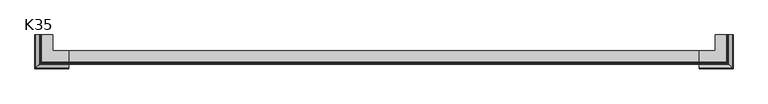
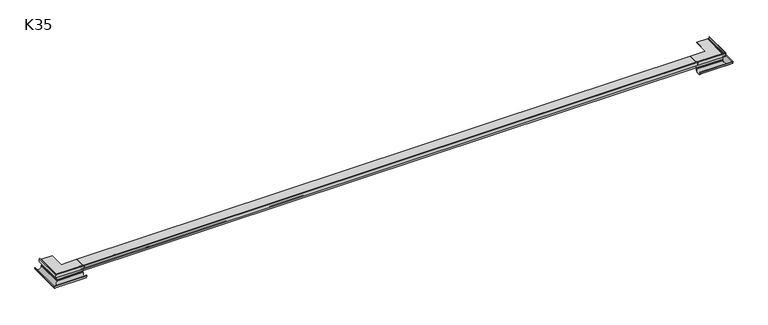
"""IFC4 building model written with IfcOpenShell, lengths in millimetres: proxy geometry, K35 Profil okapowy prosty z rynną : K35."""

from ifc_helpers import new_model, si_unit, point, frame, frame_2d, origin, place, context, project, spatial, polyline, circle_curve, ellipse_curve, trimmed, segment, composite_curve, outline, extrude, source, transform, mapped, element, save
from ifc_brep_helpers import plane_surface, cylinder_surface, revolved_surface, advanced_brep


def k35_28f71dd0(model_context):
    return source(origin(), model_context, "Body", "SolidModel", [
        advanced_brep(
        [(4810.00001, 16.4991223, -59.2083048), (4810.00001, 13.986306, -61.5531778), (4810.00001, 13.4729987, -65.2055476), (4810.00001, 16.7578594, -63.8112071), (4810.00001, 15.9780641, -65.7596329), (4810.00001, 13.1720341, -67.345008), (4810.00001, -36.6008784, -63.9830434), (4810.00001, -35.1249565, -65.8745375), (4810.00001, 11.8642359, -66.5026491), (4810.00001, 12.7305814, -60.7489582), (4810.00001, 15.099121, -58.453297), (4810.00001, 15.099121, -15.0330434), (4810.00001, 16.4991223, -15.0330434), (5006.5270113, 13.4729987, -65.2055476), (5003.2421506, 16.7578594, -63.8112071), (5004.0219459, 15.9780641, -65.7596329), (5006.8279759, 13.1720341, -67.345008), (5056.6008884, -36.6008784, -63.9830434), (5055.1249664, -35.1249565, -65.8745375), (5008.1357741, 11.8642359, -66.5026491), (5007.2694286, 12.7305814, -60.7489582), (5006.013704, 13.986306, -61.5531778), (5003.5008877, 210.0, -59.2083048), (5003.5008877, 210.0, -15.0330434), (5004.900889, 210.0, -15.0330434), (5004.900889, 210.0, -58.453297), (5007.2694286, 210.0, -60.7489582), (5008.1357741, 210.0, -66.5026491), (5055.1249664, 210.0, -65.8745375), (5056.6008884, 210.0, -63.9830434), (5006.8279759, 210.0, -67.345008), (5004.0219459, 210.0, -65.7596329), (5003.2421506, 210.0, -63.8112071), (5006.5270113, 210.0, -65.2055476), (5006.013704, 210.0, -61.5531778), (5003.5008877, 16.4991223, -15.0330434), (5003.5008877, 16.4991223, -59.2083048), (5004.900889, 15.099121, -58.453297), (5004.900889, 15.099121, -15.0330434)],
        [
            (0, 1),
            (1, 2),
            (2, 3),
            (3, 4),
            (4, 5),
            (5, 6, circle_curve(frame((4810.00001, -11.6008784, -63.9830434), z_axis=(-1.0, 0.0, 0.0), x_axis=(0.0, -1.0, 0.0)), 25.0)),
            (6, 7, circle_curve(frame((4810.00001, -34.6508784, -63.9830434), z_axis=(-1.0, 0.0, 0.0), x_axis=(0.0, -1.0, 0.0)), 1.95)),
            (7, 8, circle_curve(frame((4810.00001, -11.6008784, -63.9830434), z_axis=(1.0, 0.0, 0.0), x_axis=(0.0, -1.0, 0.0)), 23.6)),
            (8, 9),
            (9, 10),
            (10, 11),
            (11, 12),
            (12, 0),
            (2, 13),
            (13, 14),
            (14, 3),
            (14, 15),
            (15, 4),
            (15, 16),
            (16, 5),
            (16, 17, ellipse_curve(frame((5031.6008884, -11.6008784, -63.9830434), z_axis=(-0.7071067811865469, -0.7071067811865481, 0.0), x_axis=(-0.7071067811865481, 0.7071067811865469, 0.0)), 35.3553391, 25.0)),
            (17, 6),
            (17, 18, ellipse_curve(frame((5054.6508884, -34.6508784, -63.9830434), z_axis=(-0.7071067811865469, -0.7071067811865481, 0.0), x_axis=(-0.7071067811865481, 0.7071067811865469, 0.0)), 2.7577164, 1.95)),
            (18, 7),
            (18, 19, ellipse_curve(frame((5031.6008884, -11.6008784, -63.9830434), z_axis=(0.7071067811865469, 0.7071067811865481, 0.0), x_axis=(0.7071067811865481, -0.7071067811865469, 0.0)), 33.3754401, 23.6)),
            (19, 8),
            (19, 20),
            (20, 9),
            (1, 21),
            (21, 13),
            (22, 23),
            (23, 24),
            (24, 25),
            (25, 26),
            (26, 27),
            (27, 28, circle_curve(frame((5031.6008884, 210.0, -63.9830434), z_axis=(0.0, -1.0, 0.0), x_axis=(1.0, 0.0, 0.0)), 23.6)),
            (28, 29, circle_curve(frame((5054.6508884, 210.0, -63.9830434), z_axis=(0.0, 1.0, 0.0), x_axis=(1.0, 0.0, 0.0)), 1.95)),
            (29, 30, circle_curve(frame((5031.6008884, 210.0, -63.9830434), z_axis=(0.0, 1.0, 0.0), x_axis=(1.0, 0.0, 0.0)), 25.0)),
            (30, 31),
            (31, 32),
            (32, 33),
            (33, 34),
            (34, 22),
            (13, 33),
            (32, 14),
            (31, 15),
            (30, 16),
            (29, 17),
            (28, 18),
            (27, 19),
            (26, 20),
            (21, 34),
            (12, 35),
            (35, 36),
            (36, 0),
            (36, 21),
            (20, 37),
            (37, 10),
            (37, 38),
            (38, 11),
            (35, 23),
            (22, 36),
            (25, 37),
            (24, 38),
        ],
        [
            plane_surface(frame((4810.00001, 0.0, 0.0), z_axis=(-1.0, 0.0, 0.0), x_axis=(0.0, 0.0, 1.0))),
            plane_surface(frame((4810.00001, 16.7578594, -63.8112071), z_axis=(0.0, -0.3907310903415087, 0.9205048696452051), x_axis=(1.0, 0.0, 0.0))),
            plane_surface(frame((4810.00001, 15.9780641, -65.7596329), z_axis=(0.0, 0.9284068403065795, -0.37156525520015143), x_axis=(1.0, 0.0, 0.0))),
            plane_surface(frame((4810.00001, 13.1720341, -67.345008), z_axis=(0.0, 0.49190631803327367, -0.8706481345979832), x_axis=(1.0, 0.0, 0.0))),
            cylinder_surface(frame((4810.00001, -11.6008784, -63.9830434), z_axis=(-1.0, 0.0, 0.0), x_axis=(0.0, -1.0, 0.0)), 25.0),
            cylinder_surface(frame((4810.00001, -34.6508784, -63.9830434), z_axis=(-1.0, 0.0, 0.0), x_axis=(0.0, -1.0, 0.0)), 1.95),
            revolved_surface(polyline([(5055.200888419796, -35.2008784, -63.9830434), (4810.00001, -35.2008784, -63.9830434)]), (4810.00001, -11.6008784, -63.9830434), (1.0, 0.0, 0.0)),
            plane_surface(frame((4810.00001, 12.7305814, -60.7489582), z_axis=(0.0, -0.9888532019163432, 0.14889373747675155), x_axis=(1.0, 0.0, 0.0))),
            plane_surface(frame((4810.00001, 13.4729987, -65.2055476), z_axis=(0.0, 0.9902680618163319, -0.13917315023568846), x_axis=(1.0, 0.0, 0.0))),
            plane_surface(frame((5020.00001, 210.0, 0.0), z_axis=(0.0, 1.0, 0.0), x_axis=(0.0, 0.0, 1.0))),
            plane_surface(frame((5003.2421506, 16.7578594, -63.8112071), z_axis=(0.3907310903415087, 0.0, 0.9205048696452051), x_axis=(0.0, 1.0, 0.0))),
            plane_surface(frame((5004.0219459, 15.9780641, -65.7596329), z_axis=(-0.9284068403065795, 0.0, -0.37156525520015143), x_axis=(0.0, 1.0, 0.0))),
            plane_surface(frame((5006.8279759, 13.1720341, -67.345008), z_axis=(-0.49190631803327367, 0.0, -0.8706481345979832), x_axis=(0.0, 1.0, 0.0))),
            cylinder_surface(frame((5031.6008884, 0.0, -63.9830434), z_axis=(0.0, -1.0, 0.0), x_axis=(1.0, 0.0, 0.0)), 25.0),
            cylinder_surface(frame((5054.6508884, 0.0, -63.9830434), z_axis=(0.0, -1.0, 0.0), x_axis=(1.0, 0.0, 0.0)), 1.95),
            revolved_surface(polyline([(5055.200888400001, 210.0, -63.9830434), (5055.200888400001, -35.2008784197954, -63.9830434)]), (5031.6008884, 0.0, -63.9830434), (0.0, 1.0, 0.0)),
            plane_surface(frame((5007.2694286, 12.7305814, -60.7489582), z_axis=(0.9888532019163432, 0.0, 0.14889373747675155), x_axis=(0.0, 1.0, 0.0))),
            plane_surface(frame((5006.5270113, 13.4729987, -65.2055476), z_axis=(-0.9902680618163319, 0.0, -0.13917315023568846), x_axis=(0.0, 1.0, 0.0))),
            plane_surface(frame((4810.00001, 16.4991223, -59.2083048), z_axis=(0.0, 1.0, 0.0), x_axis=(1.0, 0.0, 0.0))),
            plane_surface(frame((4810.00001, 13.986306, -61.5531778), z_axis=(0.0, 0.6822525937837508, -0.7311165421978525), x_axis=(1.0, 0.0, 0.0))),
            plane_surface(frame((4810.00001, 15.099121, -58.453297), z_axis=(0.0, -0.6959732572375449, 0.7180677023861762), x_axis=(1.0, 0.0, 0.0))),
            plane_surface(frame((4810.00001, 15.099121, -15.0330434), z_axis=(0.0, -1.0, 0.0), x_axis=(1.0, 0.0, 0.0))),
            plane_surface(frame((5003.5008877, 16.4991223, -59.2083048), z_axis=(-1.0, 0.0, 0.0), x_axis=(0.0, 1.0, 0.0))),
            plane_surface(frame((5006.013704, 13.986306, -61.5531778), z_axis=(-0.6822525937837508, 0.0, -0.7311165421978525), x_axis=(0.0, 1.0, 0.0))),
            plane_surface(frame((5004.900889, 15.099121, -58.453297), z_axis=(0.6959732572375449, 0.0, 0.7180677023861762), x_axis=(0.0, 1.0, 0.0))),
            plane_surface(frame((5004.900889, 15.099121, -15.0330434), z_axis=(1.0, 0.0, 0.0), x_axis=(0.0, 1.0, 0.0))),
            plane_surface(frame((4810.00001, 16.4991223, -15.0330434), z_axis=(0.0, 0.0, 1.0), x_axis=(1.0, 0.0, 0.0))),
        ],
        [
            (0, [[1, 2, 3, 4, 5, 6, 7, 8, 9, 10, 11, 12, 13]]),
            (1, [[14, 15, 16, -3]]),
            (2, [[-16, 17, 18, -4]]),
            (3, [[-18, 19, 20, -5]]),
            (4, [[-20, 21, 22, -6]]),
            (5, [[-22, 23, 24, -7]]),
            (6, [[-24, 25, 26, -8]]),
            (7, [[-26, 27, 28, -9]]),
            (8, [[29, 30, -14, -2]]),
            (9, [[31, 32, 33, 34, 35, 36, 37, 38, 39, 40, 41, 42, 43]]),
            (10, [[44, -41, 45, -15]]),
            (11, [[-45, -40, 46, -17]]),
            (12, [[-46, -39, 47, -19]]),
            (13, [[-47, -38, 48, -21]]),
            (14, [[-48, -37, 49, -23]]),
            (15, [[-49, -36, 50, -25]]),
            (16, [[-50, -35, 51, -27]]),
            (17, [[52, -42, -44, -30]]),
            (18, [[53, 54, 55, -13]]),
            (19, [[-55, 56, -29, -1]]),
            (20, [[-28, 57, 58, -10]]),
            (21, [[-58, 59, 60, -11]]),
            (22, [[61, -31, 62, -54]]),
            (23, [[-62, -43, -52, -56]]),
            (24, [[-51, -34, 63, -57]]),
            (25, [[-63, -33, 64, -59]]),
            (26, [[-60, -64, -32, -61, -53, -12]]),
        ],
    ),
        advanced_brep(
        [(4810.00001, -0.0010677, 0.0), (4810.00001, -0.0010677, -1.8358001), (4810.00001, -1.0010677, -2.8358001), (4810.00001, -1.0010677, -19.6829113), (4810.00001, 13.1366439, -19.6829113), (4810.00001, 13.1366439, -14.9), (4810.00001, 11.3457599, -14.9), (4810.00001, 9.9435317, -16.3022282), (4810.00001, 8.4405044, -16.3022282), (4810.00001, 11.0612599, -13.5), (4810.00001, 95.0989323, -13.5), (4810.00001, 95.0989323, -14.9), (4810.00001, 21.5989323, -14.9), (4810.00001, 21.5989323, -17.8969711), (4810.00001, 20.0989323, -17.8969711), (4810.00001, 20.0989323, -14.9), (4810.00001, 15.0989323, -14.9), (4810.00001, 15.0989323, -54.7), (4810.00001, 13.5989323, -54.7), (4810.00001, 13.5989323, -21.1829113), (4810.00001, 10.049712, -21.1829113), (4810.00001, 8.5231229, -22.7095005), (4810.00001, 8.5231229, -21.1829113), (4810.00001, -1.0010677, -21.1829113), (4810.00001, -1.0010677, -25.549015), (4810.00001, -2.5010677, -26.8), (4810.00001, -2.5010677, -2.8358001), (5020.0010777, 210.0, 0.0), (5022.5010777, 210.0, -2.8358001), (5022.5010777, 210.0, -26.8), (5021.0010777, 210.0, -25.549015), (5021.0010777, 210.0, -21.1829113), (5011.4768871, 210.0, -21.1829113), (5011.4768871, 210.0, -22.7095005), (5009.950298, 210.0, -21.1829113), (5006.4010777, 210.0, -21.1829113), (5006.4010777, 210.0, -54.7), (5004.9010777, 210.0, -54.7), (5004.9010777, 210.0, -14.9), (4999.9010777, 210.0, -14.9), (4999.9010777, 210.0, -17.8969711), (4998.4010777, 210.0, -17.8969711), (4998.4010777, 210.0, -14.9), (4924.9010777, 210.0, -14.9), (4924.9010777, 210.0, -13.5), (5008.9387501, 210.0, -13.5), (5011.5595056, 210.0, -16.3022282), (5010.0564783, 210.0, -16.3022282), (5008.6542501, 210.0, -14.9), (5006.863366, 210.0, -14.9), (5006.863366, 210.0, -19.6829113), (5021.0010777, 210.0, -19.6829113), (5021.0010777, 210.0, -2.8358001), (5020.0010777, 210.0, -1.8358001), (5022.5010777, -2.5010677, -2.8358001), (5020.0010777, -0.0010677, 0.0), (5022.5010777, -2.5010677, -26.8), (5021.0010777, -1.0010677, -25.549015), (5021.0010777, -1.0010677, -21.1829113), (5011.4768871, 8.5231229, -21.1829113), (5011.4768871, 8.5231229, -22.7095005), (5009.950298, 10.049712, -21.1829113), (5006.4010777, 13.5989323, -21.1829113), (5006.4010777, 13.5989323, -54.7), (5004.9010777, 15.0989323, -54.7), (5004.9010777, 15.0989323, -14.9), (4999.9010777, 20.0989323, -14.9), (4999.9010777, 20.0989323, -17.8969711), (4998.4010777, 21.5989323, -17.8969711), (4998.4010777, 21.5989323, -14.9), (4924.9010777, 95.0989323, -14.9), (4924.9010777, 95.0989323, -13.5), (5008.9387501, 11.0612599, -13.5), (5011.5595056, 8.4405044, -16.3022282), (5010.0564783, 9.9435317, -16.3022282), (5008.6542501, 11.3457599, -14.9), (5006.863366, 13.1366439, -14.9), (5006.863366, 13.1366439, -19.6829113), (5021.0010777, -1.0010677, -19.6829113), (5021.0010777, -1.0010677, -2.8358001), (5020.0010777, -0.0010677, -1.8358001)],
        [
            (0, 1),
            (1, 2, circle_curve(frame((4810.00001, -0.0010677, -2.8358001), z_axis=(1.0, 0.0, 0.0), x_axis=(0.0, -1.0, 0.0)), 1.0)),
            (2, 3),
            (3, 4),
            (4, 5),
            (5, 6),
            (6, 7, circle_curve(frame((4810.00001, 11.3457599, -16.3022282), z_axis=(1.0, 0.0, 0.0), x_axis=(0.0, 1.0, 0.0)), 1.4022282)),
            (7, 8),
            (8, 9, circle_curve(frame((4810.00001, 11.0612599, -16.1266316), z_axis=(-1.0, 0.0, 0.0), x_axis=(0.0, 1.0, 0.0)), 2.6266316)),
            (9, 10),
            (10, 11),
            (11, 12),
            (12, 13),
            (13, 14),
            (14, 15),
            (15, 16),
            (16, 17),
            (17, 18),
            (18, 19),
            (19, 20),
            (20, 21),
            (21, 22),
            (22, 23),
            (23, 24),
            (24, 25),
            (25, 26),
            (26, 0, circle_curve(frame((4810.00001, 0.4087938, -2.8812097), z_axis=(-1.0, 0.0, 0.0), x_axis=(0.0, -1.0, 0.0)), 2.9102158)),
            (27, 28, circle_curve(frame((5019.5912162, 210.0, -2.8812097), z_axis=(0.0, 1.0, 0.0), x_axis=(1.0, 0.0, 0.0)), 2.9102158)),
            (28, 29),
            (29, 30),
            (30, 31),
            (31, 32),
            (32, 33),
            (33, 34),
            (34, 35),
            (35, 36),
            (36, 37),
            (37, 38),
            (38, 39),
            (39, 40),
            (40, 41),
            (41, 42),
            (42, 43),
            (43, 44),
            (44, 45),
            (45, 46, circle_curve(frame((5008.9387501, 210.0, -16.1266316), z_axis=(0.0, 1.0, 0.0), x_axis=(-1.0, 0.0, 0.0)), 2.6266316)),
            (46, 47),
            (47, 48, circle_curve(frame((5008.6542501, 210.0, -16.3022282), z_axis=(0.0, -1.0, 0.0), x_axis=(-1.0, 0.0, 0.0)), 1.4022282)),
            (48, 49),
            (49, 50),
            (50, 51),
            (51, 52),
            (52, 53, circle_curve(frame((5020.0010777, 210.0, -2.8358001), z_axis=(0.0, -1.0, 0.0), x_axis=(1.0, 0.0, 0.0)), 1.0)),
            (53, 27),
            (26, 54),
            (54, 55, ellipse_curve(frame((5019.5912162, 0.4087938, -2.8812097), z_axis=(-0.7071067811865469, -0.707106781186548, 0.0), x_axis=(-0.7071067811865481, 0.7071067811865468, 0.0)), 4.1156667, 2.9102158)),
            (55, 0),
            (25, 56),
            (56, 54),
            (24, 57),
            (57, 56),
            (23, 58),
            (58, 57),
            (22, 59),
            (59, 32),
            (31, 58),
            (21, 60),
            (60, 59),
            (20, 61),
            (61, 60),
            (19, 62),
            (62, 35),
            (34, 61),
            (18, 63),
            (63, 62),
            (17, 64),
            (64, 37),
            (36, 63),
            (16, 65),
            (65, 64),
            (15, 66),
            (66, 39),
            (38, 65),
            (14, 67),
            (67, 66),
            (13, 68),
            (68, 41),
            (40, 67),
            (12, 69),
            (69, 68),
            (11, 70),
            (70, 43),
            (42, 69),
            (10, 71),
            (71, 70),
            (9, 72),
            (72, 45),
            (44, 71),
            (8, 73),
            (73, 72, ellipse_curve(frame((5008.9387501, 11.0612599, -16.1266316), z_axis=(-0.7071067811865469, -0.707106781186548, 0.0), x_axis=(-0.7071067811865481, 0.7071067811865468, 0.0)), 3.714618, 2.6266316)),
            (7, 74),
            (74, 47),
            (46, 73),
            (6, 75),
            (75, 74, ellipse_curve(frame((5008.6542501, 11.3457599, -16.3022282), z_axis=(0.7071067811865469, 0.707106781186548, 0.0), x_axis=(0.7071067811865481, -0.7071067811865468, 0.0)), 1.9830501, 1.4022282)),
            (5, 76),
            (76, 49),
            (48, 75),
            (4, 77),
            (77, 76),
            (3, 78),
            (78, 51),
            (50, 77),
            (2, 79),
            (79, 78),
            (1, 80),
            (80, 79, ellipse_curve(frame((5020.0010777, -0.0010677, -2.8358001), z_axis=(0.7071067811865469, 0.707106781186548, 0.0), x_axis=(0.7071067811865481, -0.7071067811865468, 0.0)), 1.4142136, 1.0)),
            (55, 80),
            (54, 28),
            (27, 55),
            (56, 29),
            (57, 30),
            (60, 33),
            (79, 52),
            (80, 53),
        ],
        [
            plane_surface(frame((4810.00001, 0.0, 0.0), z_axis=(-1.0, 0.0, 0.0), x_axis=(0.0, 0.0, 1.0))),
            plane_surface(frame((5020.00001, 210.0, 0.0), z_axis=(0.0, 1.0, 0.0), x_axis=(0.0, 0.0, 1.0))),
            cylinder_surface(frame((4810.00001, 0.4087938, -2.8812097), z_axis=(-1.0, 0.0, 0.0), x_axis=(0.0, -1.0, 0.0)), 2.9102158),
            plane_surface(frame((4810.00001, -2.5010677, -2.8358001), z_axis=(0.0, -1.0, 0.0), x_axis=(1.0, 0.0, 0.0))),
            plane_surface(frame((4810.00001, -2.5010677, -26.8), z_axis=(0.0, 0.6404819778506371, -0.767973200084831), x_axis=(1.0, 0.0, 0.0))),
            plane_surface(frame((4810.00001, -1.0010677, -25.549015), z_axis=(0.0, 1.0, 0.0), x_axis=(1.0, 0.0, 0.0))),
            plane_surface(frame((4810.00001, 7.7310535, -21.1829113), z_axis=(0.0, 0.0, -1.0), x_axis=(1.0, 0.0, 0.0))),
            plane_surface(frame((4810.00001, 8.5231229, -21.1829113), z_axis=(0.0, -1.0, 0.0), x_axis=(1.0, 0.0, 0.0))),
            plane_surface(frame((4810.00001, 8.5231229, -22.7095005), z_axis=(0.0, 0.7071067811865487, -0.7071067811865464), x_axis=(1.0, 0.0, 0.0))),
            plane_surface(frame((4810.00001, 10.049712, -21.1829113), z_axis=(0.0, 0.0, -1.0), x_axis=(1.0, 0.0, 0.0))),
            plane_surface(frame((4810.00001, 13.5989323, -21.1829113), z_axis=(0.0, -1.0, 0.0), x_axis=(1.0, 0.0, 0.0))),
            plane_surface(frame((4810.00001, 13.5989323, -54.7), z_axis=(0.0, 0.0, -1.0), x_axis=(1.0, 0.0, 0.0))),
            plane_surface(frame((4810.00001, 15.0989323, -54.7), z_axis=(0.0, 1.0, 0.0), x_axis=(1.0, 0.0, 0.0))),
            plane_surface(frame((4810.00001, 15.0989323, -14.9), z_axis=(0.0, 0.0, -1.0), x_axis=(1.0, 0.0, 0.0))),
            plane_surface(frame((4810.00001, 20.0989323, -14.9), z_axis=(0.0, -1.0, 0.0), x_axis=(1.0, 0.0, 0.0))),
            plane_surface(frame((4810.00001, 20.0989323, -17.8969711), z_axis=(0.0, 0.0, -1.0), x_axis=(1.0, 0.0, 0.0))),
            plane_surface(frame((4810.00001, 21.5989323, -17.8969711), z_axis=(0.0, 1.0, 0.0), x_axis=(1.0, 0.0, 0.0))),
            plane_surface(frame((4810.00001, 21.5989323, -14.9), z_axis=(0.0, 0.0, -1.0), x_axis=(1.0, 0.0, 0.0))),
            plane_surface(frame((4810.00001, 95.0989323, -14.9), z_axis=(0.0, 1.0, 0.0), x_axis=(1.0, 0.0, 0.0))),
            plane_surface(frame((4810.00001, 95.0989323, -13.5), z_axis=(0.0, 0.0, 1.0), x_axis=(1.0, 0.0, 0.0))),
            cylinder_surface(frame((4810.00001, 11.0612599, -16.1266316), z_axis=(-1.0, 0.0, 0.0), x_axis=(0.0, 1.0, 0.0)), 2.6266316),
            plane_surface(frame((4810.00001, 8.4405044, -16.3022282), z_axis=(0.0, 0.0, -1.0), x_axis=(1.0, 0.0, 0.0))),
            revolved_surface(polyline([(5010.0564783, 12.747988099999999, -16.3022282), (4810.00001, 12.747988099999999, -16.3022282)]), (4810.00001, 11.3457599, -16.3022282), (1.0, 0.0, 0.0)),
            plane_surface(frame((4810.00001, 11.3457599, -14.9), z_axis=(0.0, 0.0, -1.0), x_axis=(1.0, 0.0, 0.0))),
            plane_surface(frame((4810.00001, 13.1366439, -14.9), z_axis=(0.0, -1.0, 0.0), x_axis=(1.0, 0.0, 0.0))),
            plane_surface(frame((4810.00001, 0.0, -19.6829113), z_axis=(0.0, 0.0, 1.0), x_axis=(1.0, 0.0, 0.0))),
            plane_surface(frame((4810.00001, -1.0010677, -19.6829113), z_axis=(0.0, 1.0, 0.0), x_axis=(1.0, 0.0, 0.0))),
            revolved_surface(polyline([(5021.001077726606, -1.0010677, -2.8358001), (4810.00001, -1.0010677, -2.8358001)]), (4810.00001, -0.0010677, -2.8358001), (1.0, 0.0, 0.0)),
            plane_surface(frame((4810.00001, -0.0010677, -1.8358001), z_axis=(0.0, 1.0, 0.0), x_axis=(1.0, 0.0, 0.0))),
            cylinder_surface(frame((5019.5912162, 0.0, -2.8812097), z_axis=(0.0, -1.0, 0.0), x_axis=(1.0, 0.0, 0.0)), 2.9102158),
            plane_surface(frame((5022.5010777, -2.5010677, -2.8358001), z_axis=(1.0, 0.0, 0.0), x_axis=(0.0, 1.0, 0.0))),
            plane_surface(frame((5022.5010777, -2.5010677, -26.8), z_axis=(-0.6404819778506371, 0.0, -0.767973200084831), x_axis=(0.0, 1.0, 0.0))),
            plane_surface(frame((5021.0010777, -1.0010677, -25.549015), z_axis=(-1.0, 0.0, 0.0), x_axis=(0.0, 1.0, 0.0))),
            plane_surface(frame((5011.4768871, 8.5231229, -21.1829113), z_axis=(1.0, 0.0, 0.0), x_axis=(0.0, 1.0, 0.0))),
            plane_surface(frame((5011.4768871, 8.5231229, -22.7095005), z_axis=(-0.7071067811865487, 0.0, -0.7071067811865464), x_axis=(0.0, 1.0, 0.0))),
            plane_surface(frame((5006.4010777, 13.5989323, -21.1829113), z_axis=(1.0, 0.0, 0.0), x_axis=(0.0, 1.0, 0.0))),
            plane_surface(frame((5004.9010777, 15.0989323, -54.7), z_axis=(-1.0, 0.0, 0.0), x_axis=(0.0, 1.0, 0.0))),
            plane_surface(frame((4999.9010777, 20.0989323, -14.9), z_axis=(1.0, 0.0, 0.0), x_axis=(0.0, 1.0, 0.0))),
            plane_surface(frame((4998.4010777, 21.5989323, -17.8969711), z_axis=(-1.0, 0.0, 0.0), x_axis=(0.0, 1.0, 0.0))),
            plane_surface(frame((4924.9010777, 95.0989323, -14.9), z_axis=(-1.0, 0.0, 0.0), x_axis=(0.0, 1.0, 0.0))),
            cylinder_surface(frame((5008.9387501, 0.0, -16.1266316), z_axis=(0.0, -1.0, 0.0), x_axis=(-1.0, 0.0, 0.0)), 2.6266316),
            revolved_surface(polyline([(5007.252021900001, 210.0, -16.3022282), (5007.252021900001, 9.9435317, -16.3022282)]), (5008.6542501, 0.0, -16.3022282), (0.0, 1.0, 0.0)),
            plane_surface(frame((5006.863366, 13.1366439, -14.9), z_axis=(1.0, 0.0, 0.0), x_axis=(0.0, 1.0, 0.0))),
            plane_surface(frame((5021.0010777, -1.0010677, -19.6829113), z_axis=(-1.0, 0.0, 0.0), x_axis=(0.0, 1.0, 0.0))),
            revolved_surface(polyline([(5021.0010777, 210.0, -2.8358001), (5021.0010777, -1.0010677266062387, -2.8358001)]), (5020.0010777, 0.0, -2.8358001), (0.0, 1.0, 0.0)),
            plane_surface(frame((5020.0010777, -0.0010677, -1.8358001), z_axis=(-1.0, 0.0, 0.0), x_axis=(0.0, 1.0, 0.0))),
        ],
        [
            (0, [[1, 2, 3, 4, 5, 6, 7, 8, 9, 10, 11, 12, 13, 14, 15, 16, 17, 18, 19, 20, 21, 22, 23, 24, 25, 26, 27]]),
            (1, [[28, 29, 30, 31, 32, 33, 34, 35, 36, 37, 38, 39, 40, 41, 42, 43, 44, 45, 46, 47, 48, 49, 50, 51, 52, 53, 54]]),
            (2, [[55, 56, 57, -27]]),
            (3, [[58, 59, -55, -26]]),
            (4, [[60, 61, -58, -25]]),
            (5, [[62, 63, -60, -24]]),
            (6, [[-23, 64, 65, -32, 66, -62]]),
            (7, [[67, 68, -64, -22]]),
            (8, [[69, 70, -67, -21]]),
            (9, [[71, 72, -35, 73, -69, -20]]),
            (10, [[74, 75, -71, -19]]),
            (11, [[76, 77, -37, 78, -74, -18]]),
            (12, [[79, 80, -76, -17]]),
            (13, [[81, 82, -39, 83, -79, -16]]),
            (14, [[84, 85, -81, -15]]),
            (15, [[86, 87, -41, 88, -84, -14]]),
            (16, [[89, 90, -86, -13]]),
            (17, [[91, 92, -43, 93, -89, -12]]),
            (18, [[94, 95, -91, -11]]),
            (19, [[96, 97, -45, 98, -94, -10]]),
            (20, [[99, 100, -96, -9]]),
            (21, [[101, 102, -47, 103, -99, -8]]),
            (22, [[104, 105, -101, -7]]),
            (23, [[106, 107, -49, 108, -104, -6]]),
            (24, [[109, 110, -106, -5]]),
            (25, [[-4, 111, 112, -51, 113, -109]]),
            (26, [[114, 115, -111, -3]]),
            (27, [[116, 117, -114, -2]]),
            (28, [[-57, 118, -116, -1]]),
            (29, [[119, -28, 120, -56]]),
            (30, [[121, -29, -119, -59]]),
            (31, [[122, -30, -121, -61]]),
            (32, [[-66, -31, -122, -63]]),
            (33, [[123, -33, -65, -68]]),
            (34, [[-73, -34, -123, -70]]),
            (35, [[-78, -36, -72, -75]]),
            (36, [[-83, -38, -77, -80]]),
            (37, [[-88, -40, -82, -85]]),
            (38, [[-93, -42, -87, -90]]),
            (39, [[-98, -44, -92, -95]]),
            (40, [[-103, -46, -97, -100]]),
            (41, [[-108, -48, -102, -105]]),
            (42, [[-113, -50, -107, -110]]),
            (43, [[124, -52, -112, -115]]),
            (44, [[125, -53, -124, -117]]),
            (45, [[-120, -54, -125, -118]]),
        ],
    ),
        advanced_brep(
        [(210.0, 16.4991223, -59.2083048), (210.0, 16.4991223, -15.0330434), (210.0, 15.099121, -15.0330434), (210.0, 15.099121, -58.453297), (210.0, 12.7305814, -60.7489582), (210.0, 11.8642359, -66.5026491), (210.0, -35.1249565, -65.8745375), (210.0, -36.6008784, -63.9830434), (210.0, 13.1720341, -67.345008), (210.0, 15.9780641, -65.7596329), (210.0, 16.7578594, -63.8112071), (210.0, 13.4729987, -65.2055476), (210.0, 13.986306, -61.5531778), (16.7578594, 16.7578594, -63.8112071), (13.4729987, 13.4729987, -65.2055476), (15.9780641, 15.9780641, -65.7596329), (13.1720341, 13.1720341, -67.345008), (-36.6008784, -36.6008784, -63.9830434), (-35.1249565, -35.1249565, -65.8745375), (11.8642359, 11.8642359, -66.5026491), (12.7305814, 12.7305814, -60.7489582), (13.986306, 13.986306, -61.5531778), (16.4991223, 210.0, -59.2083048), (13.986306, 210.0, -61.5531778), (13.4729987, 210.0, -65.2055476), (16.7578594, 210.0, -63.8112071), (15.9780641, 210.0, -65.7596329), (13.1720341, 210.0, -67.345008), (-36.6008784, 210.0, -63.9830434), (-35.1249565, 210.0, -65.8745375), (11.8642359, 210.0, -66.5026491), (12.7305814, 210.0, -60.7489582), (15.099121, 210.0, -58.453297), (15.099121, 210.0, -15.0330434), (16.4991223, 210.0, -15.0330434), (16.4991223, 16.4991223, -59.2083048), (16.4991223, 16.4991223, -15.0330434), (15.099121, 15.099121, -58.453297), (15.099121, 15.099121, -15.0330434)],
        [
            (0, 1),
            (1, 2),
            (2, 3),
            (3, 4),
            (4, 5),
            (5, 6, circle_curve(frame((210.0, -11.6008784, -63.9830434), z_axis=(-1.0, 0.0, 0.0), x_axis=(0.0, -1.0, 0.0)), 23.6)),
            (6, 7, circle_curve(frame((210.0, -34.6508784, -63.9830434), z_axis=(1.0, 0.0, 0.0), x_axis=(0.0, -1.0, 0.0)), 1.95)),
            (7, 8, circle_curve(frame((210.0, -11.6008784, -63.9830434), z_axis=(1.0, 0.0, 0.0), x_axis=(0.0, -1.0, 0.0)), 25.0)),
            (8, 9),
            (9, 10),
            (10, 11),
            (11, 12),
            (12, 0),
            (10, 13),
            (13, 14),
            (14, 11),
            (9, 15),
            (15, 13),
            (8, 16),
            (16, 15),
            (7, 17),
            (17, 16, ellipse_curve(frame((-11.6008784, -11.6008784, -63.9830434), z_axis=(0.7071067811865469, -0.7071067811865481, 0.0), x_axis=(0.7071067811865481, 0.7071067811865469, 0.0)), 35.3553391, 25.0)),
            (6, 18),
            (18, 17, ellipse_curve(frame((-34.6508784, -34.6508784, -63.9830434), z_axis=(0.7071067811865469, -0.7071067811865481, 0.0), x_axis=(0.7071067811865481, 0.7071067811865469, 0.0)), 2.7577164, 1.95)),
            (5, 19),
            (19, 18, ellipse_curve(frame((-11.6008784, -11.6008784, -63.9830434), z_axis=(-0.7071067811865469, 0.7071067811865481, 0.0), x_axis=(-0.7071067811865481, -0.7071067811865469, 0.0)), 33.3754401, 23.6)),
            (4, 20),
            (20, 19),
            (14, 21),
            (21, 12),
            (22, 23),
            (23, 24),
            (24, 25),
            (25, 26),
            (26, 27),
            (27, 28, circle_curve(frame((-11.6008784, 210.0, -63.9830434), z_axis=(0.0, 1.0, 0.0), x_axis=(-1.0, 0.0, 0.0)), 25.0)),
            (28, 29, circle_curve(frame((-34.6508784, 210.0, -63.9830434), z_axis=(0.0, 1.0, 0.0), x_axis=(-1.0, 0.0, 0.0)), 1.95)),
            (29, 30, circle_curve(frame((-11.6008784, 210.0, -63.9830434), z_axis=(0.0, -1.0, 0.0), x_axis=(-1.0, 0.0, 0.0)), 23.6)),
            (30, 31),
            (31, 32),
            (32, 33),
            (33, 34),
            (34, 22),
            (13, 25),
            (24, 14),
            (15, 26),
            (16, 27),
            (17, 28),
            (18, 29),
            (19, 30),
            (20, 31),
            (23, 21),
            (0, 35),
            (35, 36),
            (36, 1),
            (21, 35),
            (3, 37),
            (37, 20),
            (2, 38),
            (38, 37),
            (35, 22),
            (34, 36),
            (37, 32),
            (38, 33),
        ],
        [
            plane_surface(frame((210.0, 0.0, 0.0), z_axis=(1.0, 0.0, 0.0), x_axis=(0.0, 0.0, 1.0))),
            plane_surface(frame((210.0, 16.7578594, -63.8112071), z_axis=(0.0, -0.3907310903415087, 0.9205048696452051), x_axis=(-1.0, 0.0, 0.0))),
            plane_surface(frame((210.0, 15.9780641, -65.7596329), z_axis=(0.0, 0.9284068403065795, -0.37156525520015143), x_axis=(-1.0, 0.0, 0.0))),
            plane_surface(frame((210.0, 13.1720341, -67.345008), z_axis=(0.0, 0.49190631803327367, -0.8706481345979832), x_axis=(-1.0, 0.0, 0.0))),
            cylinder_surface(frame((210.0, -11.6008784, -63.9830434), z_axis=(1.0, 0.0, 0.0), x_axis=(0.0, -1.0, 0.0)), 25.0),
            cylinder_surface(frame((210.0, -34.6508784, -63.9830434), z_axis=(1.0, 0.0, 0.0), x_axis=(0.0, -1.0, 0.0)), 1.95),
            revolved_surface(polyline([(-35.20087841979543, -35.2008784, -63.9830434), (210.0, -35.2008784, -63.9830434)]), (210.0, -11.6008784, -63.9830434), (-1.0, 0.0, 0.0)),
            plane_surface(frame((210.0, 12.7305814, -60.7489582), z_axis=(0.0, -0.9888532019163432, 0.14889373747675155), x_axis=(-1.0, 0.0, 0.0))),
            plane_surface(frame((210.0, 13.4729987, -65.2055476), z_axis=(0.0, 0.9902680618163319, -0.13917315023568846), x_axis=(-1.0, 0.0, 0.0))),
            plane_surface(frame((0.0, 210.0, 0.0), z_axis=(0.0, 1.0, 0.0), x_axis=(0.0, 0.0, 1.0))),
            plane_surface(frame((16.7578594, 16.7578594, -63.8112071), z_axis=(-0.3907310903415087, 0.0, 0.9205048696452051), x_axis=(0.0, 1.0, 0.0))),
            plane_surface(frame((15.9780641, 15.9780641, -65.7596329), z_axis=(0.9284068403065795, 0.0, -0.37156525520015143), x_axis=(0.0, 1.0, 0.0))),
            plane_surface(frame((13.1720341, 13.1720341, -67.345008), z_axis=(0.49190631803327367, 0.0, -0.8706481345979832), x_axis=(0.0, 1.0, 0.0))),
            cylinder_surface(frame((-11.6008784, 0.0, -63.9830434), z_axis=(0.0, -1.0, 0.0), x_axis=(-1.0, 0.0, 0.0)), 25.0),
            cylinder_surface(frame((-34.6508784, 0.0, -63.9830434), z_axis=(0.0, -1.0, 0.0), x_axis=(-1.0, 0.0, 0.0)), 1.95),
            revolved_surface(polyline([(-35.2008784, 210.0, -63.9830434), (-35.2008784, -35.2008784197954, -63.9830434)]), (-11.6008784, 0.0, -63.9830434), (0.0, 1.0, 0.0)),
            plane_surface(frame((12.7305814, 12.7305814, -60.7489582), z_axis=(-0.9888532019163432, 0.0, 0.14889373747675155), x_axis=(0.0, 1.0, 0.0))),
            plane_surface(frame((13.4729987, 13.4729987, -65.2055476), z_axis=(0.9902680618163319, 0.0, -0.13917315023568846), x_axis=(0.0, 1.0, 0.0))),
            plane_surface(frame((210.0, 16.4991223, -59.2083048), z_axis=(0.0, 1.0, 0.0), x_axis=(-1.0, 0.0, 0.0))),
            plane_surface(frame((210.0, 13.986306, -61.5531778), z_axis=(0.0, 0.6822525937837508, -0.7311165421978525), x_axis=(-1.0, 0.0, 0.0))),
            plane_surface(frame((210.0, 15.099121, -58.453297), z_axis=(0.0, -0.6959732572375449, 0.7180677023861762), x_axis=(-1.0, 0.0, 0.0))),
            plane_surface(frame((210.0, 15.099121, -15.0330434), z_axis=(0.0, -1.0, 0.0), x_axis=(-1.0, 0.0, 0.0))),
            plane_surface(frame((16.4991223, 16.4991223, -59.2083048), z_axis=(1.0, 0.0, 0.0), x_axis=(0.0, 1.0, 0.0))),
            plane_surface(frame((13.986306, 13.986306, -61.5531778), z_axis=(0.6822525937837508, 0.0, -0.7311165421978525), x_axis=(0.0, 1.0, 0.0))),
            plane_surface(frame((15.099121, 15.099121, -58.453297), z_axis=(-0.6959732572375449, 0.0, 0.7180677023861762), x_axis=(0.0, 1.0, 0.0))),
            plane_surface(frame((15.099121, 15.099121, -15.0330434), z_axis=(-1.0, 0.0, 0.0), x_axis=(0.0, 1.0, 0.0))),
            plane_surface(frame((210.0, 16.4991223, -15.0330434), z_axis=(0.0, 0.0, 1.0), x_axis=(-1.0, 0.0, 0.0))),
        ],
        [
            (0, [[1, 2, 3, 4, 5, 6, 7, 8, 9, 10, 11, 12, 13]]),
            (1, [[-11, 14, 15, 16]]),
            (2, [[-10, 17, 18, -14]]),
            (3, [[-9, 19, 20, -17]]),
            (4, [[-8, 21, 22, -19]]),
            (5, [[-7, 23, 24, -21]]),
            (6, [[-6, 25, 26, -23]]),
            (7, [[-5, 27, 28, -25]]),
            (8, [[-12, -16, 29, 30]]),
            (9, [[31, 32, 33, 34, 35, 36, 37, 38, 39, 40, 41, 42, 43]]),
            (10, [[-15, 44, -33, 45]]),
            (11, [[-18, 46, -34, -44]]),
            (12, [[-20, 47, -35, -46]]),
            (13, [[-22, 48, -36, -47]]),
            (14, [[-24, 49, -37, -48]]),
            (15, [[-26, 50, -38, -49]]),
            (16, [[-28, 51, -39, -50]]),
            (17, [[-29, -45, -32, 52]]),
            (18, [[-1, 53, 54, 55]]),
            (19, [[-13, -30, 56, -53]]),
            (20, [[-4, 57, 58, -27]]),
            (21, [[-3, 59, 60, -57]]),
            (22, [[-54, 61, -43, 62]]),
            (23, [[-56, -52, -31, -61]]),
            (24, [[-58, 63, -40, -51]]),
            (25, [[-60, 64, -41, -63]]),
            (26, [[-2, -55, -62, -42, -64, -59]]),
        ],
    ),
        advanced_brep(
        [(210.0, -0.0010677, 0.0), (210.0, -2.5010677, -2.8358001), (210.0, -2.5010677, -26.8), (210.0, -1.0010677, -25.549015), (210.0, -1.0010677, -21.1829113), (210.0, 8.5231229, -21.1829113), (210.0, 8.5231229, -22.7095005), (210.0, 10.049712, -21.1829113), (210.0, 13.5989323, -21.1829113), (210.0, 13.5989323, -54.7), (210.0, 15.0989323, -54.7), (210.0, 15.0989323, -14.9), (210.0, 20.0989323, -14.9), (210.0, 20.0989323, -17.8969711), (210.0, 21.5989323, -17.8969711), (210.0, 21.5989323, -14.9), (210.0, 95.0989323, -14.9), (210.0, 95.0989323, -13.5), (210.0, 11.0612599, -13.5), (210.0, 8.4405044, -16.3022282), (210.0, 9.9435317, -16.3022282), (210.0, 11.3457599, -14.9), (210.0, 13.1366439, -14.9), (210.0, 13.1366439, -19.6829113), (210.0, -1.0010677, -19.6829113), (210.0, -1.0010677, -2.8358001), (210.0, -0.0010677, -1.8358001), (-0.0010677, 210.0, 0.0), (-0.0010677, 210.0, -1.8358001), (-1.0010677, 210.0, -2.8358001), (-1.0010677, 210.0, -19.6829113), (13.1366439, 210.0, -19.6829113), (13.1366439, 210.0, -14.9), (11.3457599, 210.0, -14.9), (9.9435317, 210.0, -16.3022282), (8.4405044, 210.0, -16.3022282), (11.0612599, 210.0, -13.5), (95.0989323, 210.0, -13.5), (95.0989323, 210.0, -14.9), (21.5989323, 210.0, -14.9), (21.5989323, 210.0, -17.8969711), (20.0989323, 210.0, -17.8969711), (20.0989323, 210.0, -14.9), (15.0989323, 210.0, -14.9), (15.0989323, 210.0, -54.7), (13.5989323, 210.0, -54.7), (13.5989323, 210.0, -21.1829113), (10.049712, 210.0, -21.1829113), (8.5231229, 210.0, -22.7095005), (8.5231229, 210.0, -21.1829113), (-1.0010677, 210.0, -21.1829113), (-1.0010677, 210.0, -25.549015), (-2.5010677, 210.0, -26.8), (-2.5010677, 210.0, -2.8358001), (-0.0010677, -0.0010677, 0.0), (-2.5010677, -2.5010677, -2.8358001), (-2.5010677, -2.5010677, -26.8), (-1.0010677, -1.0010677, -25.549015), (-1.0010677, -1.0010677, -21.1829113), (8.5231229, 8.5231229, -21.1829113), (8.5231229, 8.5231229, -22.7095005), (10.049712, 10.049712, -21.1829113), (13.5989323, 13.5989323, -21.1829113), (13.5989323, 13.5989323, -54.7), (15.0989323, 15.0989323, -54.7), (15.0989323, 15.0989323, -14.9), (20.0989323, 20.0989323, -14.9), (20.0989323, 20.0989323, -17.8969711), (21.5989323, 21.5989323, -17.8969711), (21.5989323, 21.5989323, -14.9), (95.0989323, 95.0989323, -14.9), (95.0989323, 95.0989323, -13.5), (11.0612599, 11.0612599, -13.5), (8.4405044, 8.4405044, -16.3022282), (9.9435317, 9.9435317, -16.3022282), (11.3457599, 11.3457599, -14.9), (13.1366439, 13.1366439, -14.9), (13.1366439, 13.1366439, -19.6829113), (-1.0010677, -1.0010677, -19.6829113), (-1.0010677, -1.0010677, -2.8358001), (-0.0010677, -0.0010677, -1.8358001)],
        [
            (0, 1, circle_curve(frame((210.0, 0.4087938, -2.8812097), z_axis=(1.0, 0.0, 0.0), x_axis=(0.0, -1.0, 0.0)), 2.9102158)),
            (1, 2),
            (2, 3),
            (3, 4),
            (4, 5),
            (5, 6),
            (6, 7),
            (7, 8),
            (8, 9),
            (9, 10),
            (10, 11),
            (11, 12),
            (12, 13),
            (13, 14),
            (14, 15),
            (15, 16),
            (16, 17),
            (17, 18),
            (18, 19, circle_curve(frame((210.0, 11.0612599, -16.1266316), z_axis=(1.0, 0.0, 0.0), x_axis=(0.0, 1.0, 0.0)), 2.6266316)),
            (19, 20),
            (20, 21, circle_curve(frame((210.0, 11.3457599, -16.3022282), z_axis=(-1.0, 0.0, 0.0), x_axis=(0.0, 1.0, 0.0)), 1.4022282)),
            (21, 22),
            (22, 23),
            (23, 24),
            (24, 25),
            (25, 26, circle_curve(frame((210.0, -0.0010677, -2.8358001), z_axis=(-1.0, 0.0, 0.0), x_axis=(0.0, -1.0, 0.0)), 1.0)),
            (26, 0),
            (27, 28),
            (28, 29, circle_curve(frame((-0.0010677, 210.0, -2.8358001), z_axis=(0.0, -1.0, 0.0), x_axis=(-1.0, 0.0, 0.0)), 1.0)),
            (29, 30),
            (30, 31),
            (31, 32),
            (32, 33),
            (33, 34, circle_curve(frame((11.3457599, 210.0, -16.3022282), z_axis=(0.0, -1.0, 0.0), x_axis=(1.0, 0.0, 0.0)), 1.4022282)),
            (34, 35),
            (35, 36, circle_curve(frame((11.0612599, 210.0, -16.1266316), z_axis=(0.0, 1.0, 0.0), x_axis=(1.0, 0.0, 0.0)), 2.6266316)),
            (36, 37),
            (37, 38),
            (38, 39),
            (39, 40),
            (40, 41),
            (41, 42),
            (42, 43),
            (43, 44),
            (44, 45),
            (45, 46),
            (46, 47),
            (47, 48),
            (48, 49),
            (49, 50),
            (50, 51),
            (51, 52),
            (52, 53),
            (53, 27, circle_curve(frame((0.4087938, 210.0, -2.8812097), z_axis=(0.0, 1.0, 0.0), x_axis=(-1.0, 0.0, 0.0)), 2.9102158)),
            (0, 54),
            (54, 55, ellipse_curve(frame((0.4087938, 0.4087938, -2.8812097), z_axis=(0.7071067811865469, -0.707106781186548, 0.0), x_axis=(0.7071067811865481, 0.7071067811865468, 0.0)), 4.1156667, 2.9102158)),
            (55, 1),
            (55, 56),
            (56, 2),
            (56, 57),
            (57, 3),
            (57, 58),
            (58, 4),
            (58, 50),
            (49, 59),
            (59, 5),
            (59, 60),
            (60, 6),
            (60, 61),
            (61, 7),
            (61, 47),
            (46, 62),
            (62, 8),
            (62, 63),
            (63, 9),
            (63, 45),
            (44, 64),
            (64, 10),
            (64, 65),
            (65, 11),
            (65, 43),
            (42, 66),
            (66, 12),
            (66, 67),
            (67, 13),
            (67, 41),
            (40, 68),
            (68, 14),
            (68, 69),
            (69, 15),
            (69, 39),
            (38, 70),
            (70, 16),
            (70, 71),
            (71, 17),
            (71, 37),
            (36, 72),
            (72, 18),
            (72, 73, ellipse_curve(frame((11.0612599, 11.0612599, -16.1266316), z_axis=(0.7071067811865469, -0.707106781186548, 0.0), x_axis=(0.7071067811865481, 0.7071067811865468, 0.0)), 3.714618, 2.6266316)),
            (73, 19),
            (73, 35),
            (34, 74),
            (74, 20),
            (74, 75, ellipse_curve(frame((11.3457599, 11.3457599, -16.3022282), z_axis=(-0.7071067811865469, 0.707106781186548, 0.0), x_axis=(-0.7071067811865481, -0.7071067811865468, 0.0)), 1.9830501, 1.4022282)),
            (75, 21),
            (75, 33),
            (32, 76),
            (76, 22),
            (76, 77),
            (77, 23),
            (77, 31),
            (30, 78),
            (78, 24),
            (78, 79),
            (79, 25),
            (79, 80, ellipse_curve(frame((-0.0010677, -0.0010677, -2.8358001), z_axis=(-0.7071067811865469, 0.707106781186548, 0.0), x_axis=(-0.7071067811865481, -0.7071067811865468, 0.0)), 1.4142136, 1.0)),
            (80, 26),
            (80, 54),
            (54, 27),
            (53, 55),
            (52, 56),
            (51, 57),
            (48, 60),
            (29, 79),
            (28, 80),
        ],
        [
            plane_surface(frame((210.0, 0.0, 0.0), z_axis=(1.0, 0.0, 0.0), x_axis=(0.0, 0.0, 1.0))),
            plane_surface(frame((0.0, 210.0, 0.0), z_axis=(0.0, 1.0, 0.0), x_axis=(0.0, 0.0, 1.0))),
            cylinder_surface(frame((210.0, 0.4087938, -2.8812097), z_axis=(1.0, 0.0, 0.0), x_axis=(0.0, -1.0, 0.0)), 2.9102158),
            plane_surface(frame((210.0, -2.5010677, -2.8358001), z_axis=(0.0, -1.0, 0.0), x_axis=(-1.0, 0.0, 0.0))),
            plane_surface(frame((210.0, -2.5010677, -26.8), z_axis=(0.0, 0.6404819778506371, -0.767973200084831), x_axis=(-1.0, 0.0, 0.0))),
            plane_surface(frame((210.0, -1.0010677, -25.549015), z_axis=(0.0, 1.0, 0.0), x_axis=(-1.0, 0.0, 0.0))),
            plane_surface(frame((210.0, 7.7310535, -21.1829113), z_axis=(0.0, 0.0, -1.0), x_axis=(-1.0, 0.0, 0.0))),
            plane_surface(frame((210.0, 8.5231229, -21.1829113), z_axis=(0.0, -1.0, 0.0), x_axis=(-1.0, 0.0, 0.0))),
            plane_surface(frame((210.0, 8.5231229, -22.7095005), z_axis=(0.0, 0.7071067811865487, -0.7071067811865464), x_axis=(-1.0, 0.0, 0.0))),
            plane_surface(frame((210.0, 10.049712, -21.1829113), z_axis=(0.0, 0.0, -1.0), x_axis=(-1.0, 0.0, 0.0))),
            plane_surface(frame((210.0, 13.5989323, -21.1829113), z_axis=(0.0, -1.0, 0.0), x_axis=(-1.0, 0.0, 0.0))),
            plane_surface(frame((210.0, 13.5989323, -54.7), z_axis=(0.0, 0.0, -1.0), x_axis=(-1.0, 0.0, 0.0))),
            plane_surface(frame((210.0, 15.0989323, -54.7), z_axis=(0.0, 1.0, 0.0), x_axis=(-1.0, 0.0, 0.0))),
            plane_surface(frame((210.0, 15.0989323, -14.9), z_axis=(0.0, 0.0, -1.0), x_axis=(-1.0, 0.0, 0.0))),
            plane_surface(frame((210.0, 20.0989323, -14.9), z_axis=(0.0, -1.0, 0.0), x_axis=(-1.0, 0.0, 0.0))),
            plane_surface(frame((210.0, 20.0989323, -17.8969711), z_axis=(0.0, 0.0, -1.0), x_axis=(-1.0, 0.0, 0.0))),
            plane_surface(frame((210.0, 21.5989323, -17.8969711), z_axis=(0.0, 1.0, 0.0), x_axis=(-1.0, 0.0, 0.0))),
            plane_surface(frame((210.0, 21.5989323, -14.9), z_axis=(0.0, 0.0, -1.0), x_axis=(-1.0, 0.0, 0.0))),
            plane_surface(frame((210.0, 95.0989323, -14.9), z_axis=(0.0, 1.0, 0.0), x_axis=(-1.0, 0.0, 0.0))),
            plane_surface(frame((210.0, 95.0989323, -13.5), z_axis=(0.0, 0.0, 1.0), x_axis=(-1.0, 0.0, 0.0))),
            cylinder_surface(frame((210.0, 11.0612599, -16.1266316), z_axis=(1.0, 0.0, 0.0), x_axis=(0.0, 1.0, 0.0)), 2.6266316),
            plane_surface(frame((210.0, 8.4405044, -16.3022282), z_axis=(0.0, 0.0, -1.0), x_axis=(-1.0, 0.0, 0.0))),
            revolved_surface(polyline([(9.943531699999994, 12.747988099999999, -16.3022282), (210.0, 12.747988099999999, -16.3022282)]), (210.0, 11.3457599, -16.3022282), (-1.0, 0.0, 0.0)),
            plane_surface(frame((210.0, 11.3457599, -14.9), z_axis=(0.0, 0.0, -1.0), x_axis=(-1.0, 0.0, 0.0))),
            plane_surface(frame((210.0, 13.1366439, -14.9), z_axis=(0.0, -1.0, 0.0), x_axis=(-1.0, 0.0, 0.0))),
            plane_surface(frame((210.0, 0.0, -19.6829113), z_axis=(0.0, 0.0, 1.0), x_axis=(-1.0, 0.0, 0.0))),
            plane_surface(frame((210.0, -1.0010677, -19.6829113), z_axis=(0.0, 1.0, 0.0), x_axis=(-1.0, 0.0, 0.0))),
            revolved_surface(polyline([(-1.0010677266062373, -1.0010677, -2.8358001), (210.0, -1.0010677, -2.8358001)]), (210.0, -0.0010677, -2.8358001), (-1.0, 0.0, 0.0)),
            plane_surface(frame((210.0, -0.0010677, -1.8358001), z_axis=(0.0, 1.0, 0.0), x_axis=(-1.0, 0.0, 0.0))),
            cylinder_surface(frame((0.4087938, 0.0, -2.8812097), z_axis=(0.0, -1.0, 0.0), x_axis=(-1.0, 0.0, 0.0)), 2.9102158),
            plane_surface(frame((-2.5010677, -2.5010677, -2.8358001), z_axis=(-1.0, 0.0, 0.0), x_axis=(0.0, 1.0, 0.0))),
            plane_surface(frame((-2.5010677, -2.5010677, -26.8), z_axis=(0.6404819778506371, 0.0, -0.767973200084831), x_axis=(0.0, 1.0, 0.0))),
            plane_surface(frame((-1.0010677, -1.0010677, -25.549015), z_axis=(1.0, 0.0, 0.0), x_axis=(0.0, 1.0, 0.0))),
            plane_surface(frame((8.5231229, 8.5231229, -21.1829113), z_axis=(-1.0, 0.0, 0.0), x_axis=(0.0, 1.0, 0.0))),
            plane_surface(frame((8.5231229, 8.5231229, -22.7095005), z_axis=(0.7071067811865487, 0.0, -0.7071067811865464), x_axis=(0.0, 1.0, 0.0))),
            plane_surface(frame((13.5989323, 13.5989323, -21.1829113), z_axis=(-1.0, 0.0, 0.0), x_axis=(0.0, 1.0, 0.0))),
            plane_surface(frame((15.0989323, 15.0989323, -54.7), z_axis=(1.0, 0.0, 0.0), x_axis=(0.0, 1.0, 0.0))),
            plane_surface(frame((20.0989323, 20.0989323, -14.9), z_axis=(-1.0, 0.0, 0.0), x_axis=(0.0, 1.0, 0.0))),
            plane_surface(frame((21.5989323, 21.5989323, -17.8969711), z_axis=(1.0, 0.0, 0.0), x_axis=(0.0, 1.0, 0.0))),
            plane_surface(frame((95.0989323, 95.0989323, -14.9), z_axis=(1.0, 0.0, 0.0), x_axis=(0.0, 1.0, 0.0))),
            cylinder_surface(frame((11.0612599, 0.0, -16.1266316), z_axis=(0.0, -1.0, 0.0), x_axis=(1.0, 0.0, 0.0)), 2.6266316),
            revolved_surface(polyline([(12.747988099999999, 210.0, -16.3022282), (12.747988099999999, 9.9435317, -16.3022282)]), (11.3457599, 0.0, -16.3022282), (0.0, 1.0, 0.0)),
            plane_surface(frame((13.1366439, 13.1366439, -14.9), z_axis=(-1.0, 0.0, 0.0), x_axis=(0.0, 1.0, 0.0))),
            plane_surface(frame((-1.0010677, -1.0010677, -19.6829113), z_axis=(1.0, 0.0, 0.0), x_axis=(0.0, 1.0, 0.0))),
            revolved_surface(polyline([(-1.0010677, 210.0, -2.8358001), (-1.0010677, -1.0010677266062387, -2.8358001)]), (-0.0010677, 0.0, -2.8358001), (0.0, 1.0, 0.0)),
            plane_surface(frame((-0.0010677, -0.0010677, -1.8358001), z_axis=(1.0, 0.0, 0.0), x_axis=(0.0, 1.0, 0.0))),
        ],
        [
            (0, [[1, 2, 3, 4, 5, 6, 7, 8, 9, 10, 11, 12, 13, 14, 15, 16, 17, 18, 19, 20, 21, 22, 23, 24, 25, 26, 27]]),
            (1, [[28, 29, 30, 31, 32, 33, 34, 35, 36, 37, 38, 39, 40, 41, 42, 43, 44, 45, 46, 47, 48, 49, 50, 51, 52, 53, 54]]),
            (2, [[-1, 55, 56, 57]]),
            (3, [[-2, -57, 58, 59]]),
            (4, [[-3, -59, 60, 61]]),
            (5, [[-4, -61, 62, 63]]),
            (6, [[-63, 64, -50, 65, 66, -5]]),
            (7, [[-6, -66, 67, 68]]),
            (8, [[-7, -68, 69, 70]]),
            (9, [[-8, -70, 71, -47, 72, 73]]),
            (10, [[-9, -73, 74, 75]]),
            (11, [[-10, -75, 76, -45, 77, 78]]),
            (12, [[-11, -78, 79, 80]]),
            (13, [[-12, -80, 81, -43, 82, 83]]),
            (14, [[-13, -83, 84, 85]]),
            (15, [[-14, -85, 86, -41, 87, 88]]),
            (16, [[-15, -88, 89, 90]]),
            (17, [[-16, -90, 91, -39, 92, 93]]),
            (18, [[-17, -93, 94, 95]]),
            (19, [[-18, -95, 96, -37, 97, 98]]),
            (20, [[-19, -98, 99, 100]]),
            (21, [[-20, -100, 101, -35, 102, 103]]),
            (22, [[-21, -103, 104, 105]]),
            (23, [[-22, -105, 106, -33, 107, 108]]),
            (24, [[-23, -108, 109, 110]]),
            (25, [[-110, 111, -31, 112, 113, -24]]),
            (26, [[-25, -113, 114, 115]]),
            (27, [[-26, -115, 116, 117]]),
            (28, [[-27, -117, 118, -55]]),
            (29, [[-56, 119, -54, 120]]),
            (30, [[-58, -120, -53, 121]]),
            (31, [[-60, -121, -52, 122]]),
            (32, [[-62, -122, -51, -64]]),
            (33, [[-67, -65, -49, 123]]),
            (34, [[-69, -123, -48, -71]]),
            (35, [[-74, -72, -46, -76]]),
            (36, [[-79, -77, -44, -81]]),
            (37, [[-84, -82, -42, -86]]),
            (38, [[-89, -87, -40, -91]]),
            (39, [[-94, -92, -38, -96]]),
            (40, [[-99, -97, -36, -101]]),
            (41, [[-104, -102, -34, -106]]),
            (42, [[-109, -107, -32, -111]]),
            (43, [[-114, -112, -30, 124]]),
            (44, [[-116, -124, -29, 125]]),
            (45, [[-118, -125, -28, -119]]),
        ],
    ),
        extrude(outline(composite_curve([segment(polyline([(-0.0010677, 0.0), (-0.0010677, -1.8358001)]), True, "CONTINUOUS"), segment(trimmed(circle_curve(frame_2d((-0.0010677, -2.8358001)), 1.0), [point((-0.0010677, -1.8358001))], [point((-1.0010677, -2.8358001))], True, "CARTESIAN"), True, "CONTINUOUS"), segment(polyline([(-1.0010677, -2.8358001), (-1.0010677, -19.6829113), (13.1366439, -19.6829113), (13.1366439, -14.9), (11.3457599, -14.9)]), True, "CONTINUOUS"), segment(trimmed(circle_curve(frame_2d((11.3457599, -16.3022282)), 1.4022282), [point((11.3457599, -14.9))], [point((9.9435317, -16.3022282))], True, "CARTESIAN"), True, "CONTINUOUS"), segment(polyline([(9.9435317, -16.3022282), (8.4405044, -16.3022282)]), True, "CONTINUOUS"), segment(trimmed(circle_curve(frame_2d((11.0612599, -16.1266316)), 2.6266316), [point((8.4405044, -16.3022282))], [point((11.0612599, -13.5))], False, "CARTESIAN"), True, "CONTINUOUS"), segment(polyline([(11.0612599, -13.5), (95.0989323, -13.5), (95.0989323, -14.9), (21.5989323, -14.9), (21.5989323, -17.8969711), (20.0989323, -17.8969711), (20.0989323, -14.9), (15.0989323, -14.9), (15.0989323, -54.7), (13.5989323, -54.7), (13.5989323, -21.1829113), (10.049712, -21.1829113), (8.5231229, -22.7095005), (8.5231229, -21.1829113), (-1.0010677, -21.1829113), (-1.0010677, -25.549015), (-2.5010677, -26.8), (-2.5010677, -2.8358001)]), True, "CONTINUOUS"), segment(trimmed(circle_curve(frame_2d((0.4087938, -2.8812097)), 2.9102158), [point((-2.5010677, -2.8358001))], [point((-0.0010677, 0.0))], False, "CARTESIAN"), True, "CONTINUOUS")], self_intersect=False)), frame((210.0, 0.0, 0.0), z_axis=(1.0, 0.0, 0.0), x_axis=(0.0, 1.0, 0.0)), (0.0, 0.0, 1.0), 4600.00001),
    ])


if __name__ == "__main__":
    model = new_model("IFC4")
    model_context = context("Model", 3, world=origin())
    ifc_project = project(units=[si_unit("LENGTHUNIT", "METRE", prefix="MILLI")], contexts=[model_context])
    site = spatial("IfcSite", under=ifc_project)
    building = spatial("IfcBuilding", under=site)
    placement = place(None, origin())
    k35_shape = k35_28f71dd0(model_context)
    element("IfcBuildingElementProxy", 1, Name="K35 Profil okapowy prosty z rynną : K35", ObjectType="K35 Profil okapowy prosty z rynną : K35", at=placement, inside=building, context=model_context, shape_type="MappedRepresentation", body=[
        mapped(k35_shape, transform((0.0, 0.0, 0.0), x_axis=(1.0, 0.0, 0.0), y_axis=(0.0, 1.0, 0.0), z_axis=(0.0, 0.0, 1.0))),
    ])
    save(model, "model.ifc")
